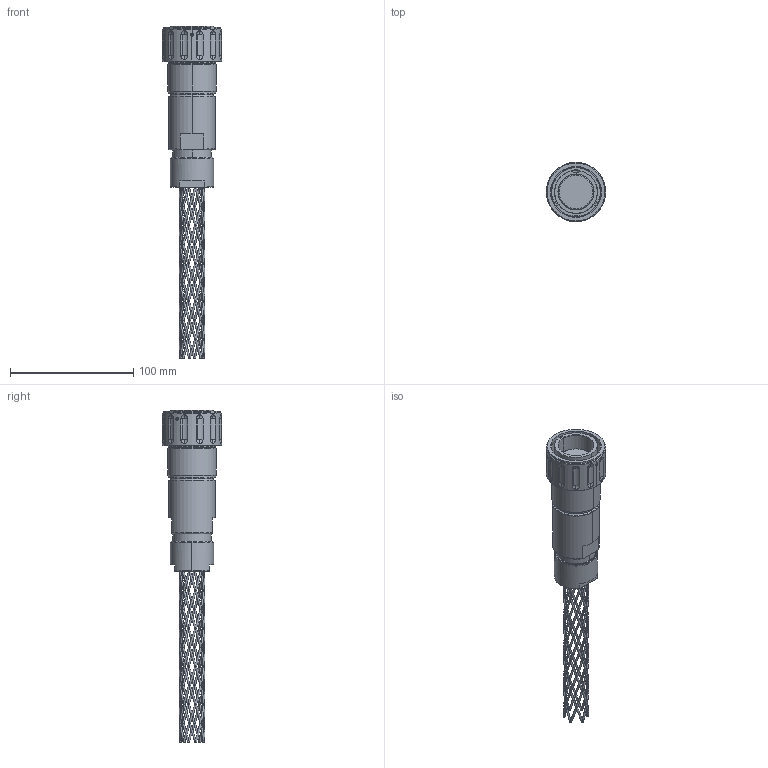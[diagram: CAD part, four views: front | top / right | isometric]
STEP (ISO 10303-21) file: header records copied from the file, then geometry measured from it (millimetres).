
FILE_DESCRIPTION (( 'STEP AP214' ), '1' );
FILE_NAME ('QLINK-PGBX-23XX-GXXX-RA.STEP', '2025-12-09T15:54:42', ( '' ), ( '' ), 'SwSTEP 2.0', 'SolidWorks 2024', '' );
FILE_SCHEMA (( 'AUTOMOTIVE_DESIGN' ));
Products named in the file (1): QLINK-PGBX-23XX-GXXX-RA
Bounding box: 48.06 x 48.06 x 268.99 mm (x, y, z)
Volume: 148304.2 mm3; surface area: 35904.6 mm2
Topology: 5 solids, 5 shells, 494 faces, 1325 edges, 762 vertices
Faces by surface type: bspline 221, cylinder 100, plane 76, sphere 48, cone 37, torus 12
Entity records: 118414 total; most frequent: CARTESIAN_POINT 108494, ORIENTED_EDGE 2650, DIRECTION 1514, EDGE_CURVE 1325, VERTEX_POINT 762, AXIS2_PLACEMENT_3D 645, EDGE_LOOP 531, FACE_OUTER_BOUND 494
